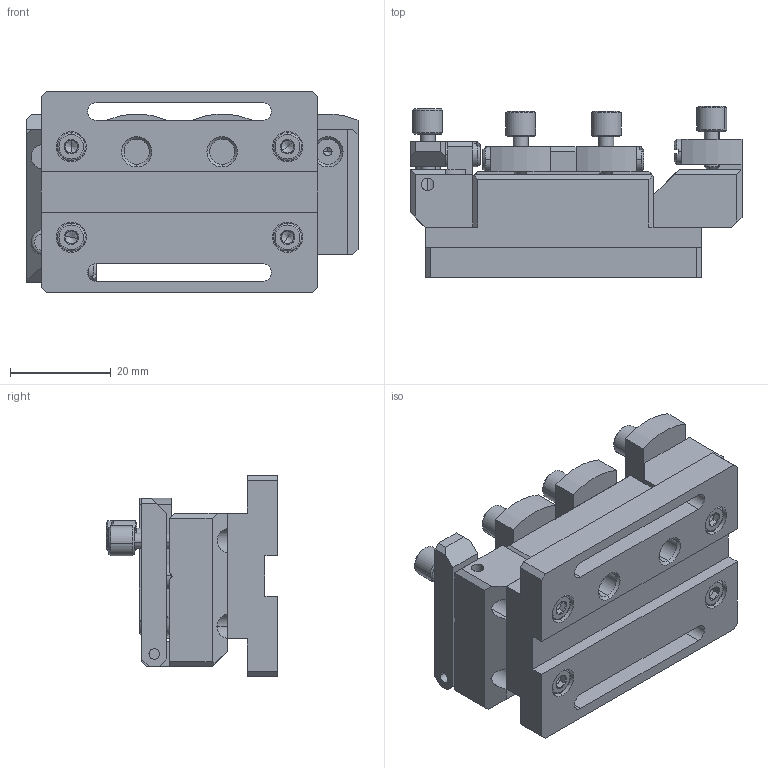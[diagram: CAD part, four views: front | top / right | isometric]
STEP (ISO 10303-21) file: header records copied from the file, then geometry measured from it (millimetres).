
FILE_DESCRIPTION (( 'STEP AP203' ), '1' );
FILE_NAME ('F260-2R.STEP', '2024-12-11T03:52:29', ( '' ), ( '' ), 'SwSTEP 2.0', 'SolidWorks 2017', '' );
FILE_SCHEMA (( 'CONFIG_CONTROL_DESIGN' ));
Length unit declared in the file: millimetre
Products named in the file (13): F260-2R; F260-2R-prt7; F260-2R-prt4; F260-2R-prt8; F260-2R-prt5; F260-2R-prt0; F260-2R-prt10; F260-2R-prt9; F260-2R-prt1; F260-2R-prt3; F260-2R-prt2; F260-2R-prt6; F260-2R-prt11
Assembly tree (12 placements, depth 2):
  F260-2R
    F260-2R-prt0
    F260-2R-prt1
    F260-2R-prt2
    F260-2R-prt3
    F260-2R-prt4
    F260-2R-prt5
    F260-2R-prt6
    F260-2R-prt7
    F260-2R-prt8
    F260-2R-prt9
    F260-2R-prt10
    F260-2R-prt11
Bounding box: 66 x 34 x 40 mm (x, y, z)
Volume: 38355.9 mm3; surface area: 20505.6 mm2
Topology: 12 solids, 12 shells, 581 faces, 1341 edges, 815 vertices
Faces by surface type: plane 284, cylinder 156, bspline 115, torus 20, cone 4, sphere 2
Entity records: 18238 total; most frequent: CARTESIAN_POINT 4041, DIRECTION 2716, ORIENTED_EDGE 2616, EDGE_CURVE 1308, AXIS2_PLACEMENT_3D 1016, VERTEX_POINT 811, LINE 684, VECTOR 684
